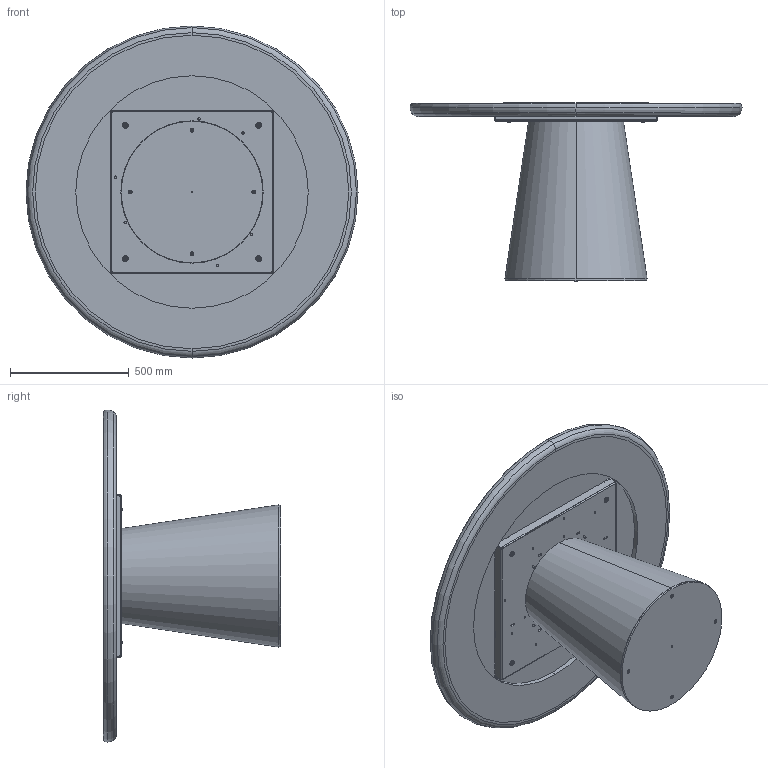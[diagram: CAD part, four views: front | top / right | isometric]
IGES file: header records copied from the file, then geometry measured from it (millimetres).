
Start section: SolidWorks IGES file using analytic representation for surfaces
Global section: file name: Y:\eforma\TECNICO\SOLIDWORKS\E-FORMA\1-TAVOLI\TEO\08 modelli 3D web\TO06K_Teo_d.140_King.IGS; native system: SolidWorks 2022; preprocessor: SolidWorks 2022; author: eforma.tech; date: 240802.112036; units: millimetre
Bounding box: 1400 x 749.19 x 1400 mm (x, y, z)
Volume: 99312741.8 mm3; surface area: 10714878 mm2
Topology: 21 solids, 21 shells, 822 faces, 2044 edges, 1256 vertices
Faces by surface type: revolution 448, plane 374
